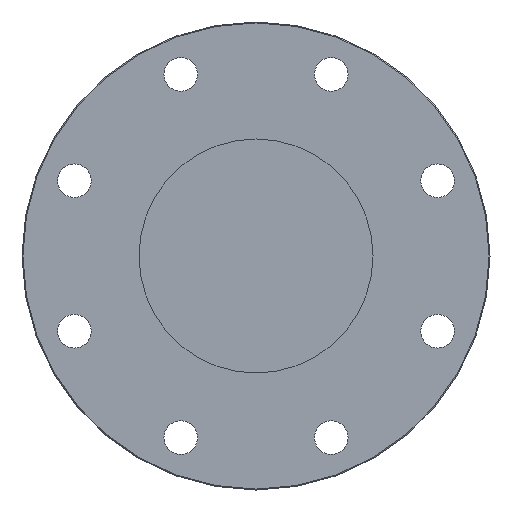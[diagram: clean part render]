
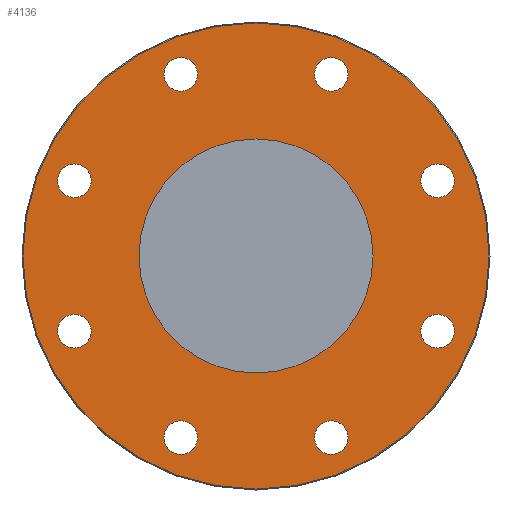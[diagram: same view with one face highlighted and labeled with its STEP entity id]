
A CAD part, left-side view. The second image highlights one B-rep face of the part: STEP entity #4136.
In plain terms, the highlighted planar face has unit normal (-1, 0, 0).
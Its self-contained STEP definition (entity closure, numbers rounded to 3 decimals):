
#138=CIRCLE('',#4373,9.);
#139=CIRCLE('',#4374,9.);
#141=CIRCLE('',#4378,9.);
#142=CIRCLE('',#4379,9.);
#144=CIRCLE('',#4383,9.);
#145=CIRCLE('',#4384,9.);
#147=CIRCLE('',#4388,9.);
#148=CIRCLE('',#4389,9.);
#150=CIRCLE('',#4393,9.);
#151=CIRCLE('',#4394,9.);
#153=CIRCLE('',#4398,9.);
#154=CIRCLE('',#4399,9.);
#156=CIRCLE('',#4403,9.);
#157=CIRCLE('',#4404,9.);
#159=CIRCLE('',#4408,9.);
#160=CIRCLE('',#4409,9.);
#163=CIRCLE('',#4416,62.5);
#176=CIRCLE('',#4437,124.5);
#272=FACE_BOUND('',#759,.T.);
#273=FACE_BOUND('',#760,.T.);
#274=FACE_BOUND('',#761,.T.);
#275=FACE_BOUND('',#762,.T.);
#276=FACE_BOUND('',#763,.T.);
#277=FACE_BOUND('',#764,.T.);
#278=FACE_BOUND('',#765,.T.);
#279=FACE_BOUND('',#766,.T.);
#280=FACE_BOUND('',#767,.T.);
#496=FACE_OUTER_BOUND('',#758,.T.);
#758=EDGE_LOOP('',(#3746));
#759=EDGE_LOOP('',(#3747,#3748));
#760=EDGE_LOOP('',(#3749,#3750));
#761=EDGE_LOOP('',(#3751,#3752));
#762=EDGE_LOOP('',(#3753,#3754));
#763=EDGE_LOOP('',(#3755,#3756));
#764=EDGE_LOOP('',(#3757,#3758));
#765=EDGE_LOOP('',(#3759,#3760));
#766=EDGE_LOOP('',(#3761,#3762));
#767=EDGE_LOOP('',(#3763));
#1975=VERTEX_POINT('',#7303);
#1976=VERTEX_POINT('',#7304);
#1978=VERTEX_POINT('',#7313);
#1979=VERTEX_POINT('',#7314);
#1981=VERTEX_POINT('',#7323);
#1982=VERTEX_POINT('',#7324);
#1984=VERTEX_POINT('',#7333);
#1985=VERTEX_POINT('',#7334);
#1987=VERTEX_POINT('',#7343);
#1988=VERTEX_POINT('',#7344);
#1990=VERTEX_POINT('',#7353);
#1991=VERTEX_POINT('',#7354);
#1993=VERTEX_POINT('',#7363);
#1994=VERTEX_POINT('',#7364);
#1996=VERTEX_POINT('',#7373);
#1997=VERTEX_POINT('',#7374);
#2000=VERTEX_POINT('',#7387);
#2013=VERTEX_POINT('',#7427);
#2537=EDGE_CURVE('',#1975,#1976,#138,.T.);
#2538=EDGE_CURVE('',#1976,#1975,#139,.T.);
#2542=EDGE_CURVE('',#1978,#1979,#141,.T.);
#2543=EDGE_CURVE('',#1979,#1978,#142,.T.);
#2547=EDGE_CURVE('',#1981,#1982,#144,.T.);
#2548=EDGE_CURVE('',#1982,#1981,#145,.T.);
#2552=EDGE_CURVE('',#1984,#1985,#147,.T.);
#2553=EDGE_CURVE('',#1985,#1984,#148,.T.);
#2557=EDGE_CURVE('',#1987,#1988,#150,.T.);
#2558=EDGE_CURVE('',#1988,#1987,#151,.T.);
#2562=EDGE_CURVE('',#1990,#1991,#153,.T.);
#2563=EDGE_CURVE('',#1991,#1990,#154,.T.);
#2567=EDGE_CURVE('',#1993,#1994,#156,.T.);
#2568=EDGE_CURVE('',#1994,#1993,#157,.T.);
#2572=EDGE_CURVE('',#1996,#1997,#159,.T.);
#2573=EDGE_CURVE('',#1997,#1996,#160,.T.);
#2578=EDGE_CURVE('',#2000,#2000,#163,.T.);
#2598=EDGE_CURVE('',#2013,#2013,#176,.T.);
#3746=ORIENTED_EDGE('',*,*,#2598,.F.);
#3747=ORIENTED_EDGE('',*,*,#2537,.T.);
#3748=ORIENTED_EDGE('',*,*,#2538,.T.);
#3749=ORIENTED_EDGE('',*,*,#2542,.T.);
#3750=ORIENTED_EDGE('',*,*,#2543,.T.);
#3751=ORIENTED_EDGE('',*,*,#2547,.T.);
#3752=ORIENTED_EDGE('',*,*,#2548,.T.);
#3753=ORIENTED_EDGE('',*,*,#2552,.T.);
#3754=ORIENTED_EDGE('',*,*,#2553,.T.);
#3755=ORIENTED_EDGE('',*,*,#2557,.T.);
#3756=ORIENTED_EDGE('',*,*,#2558,.T.);
#3757=ORIENTED_EDGE('',*,*,#2562,.T.);
#3758=ORIENTED_EDGE('',*,*,#2563,.T.);
#3759=ORIENTED_EDGE('',*,*,#2567,.T.);
#3760=ORIENTED_EDGE('',*,*,#2568,.T.);
#3761=ORIENTED_EDGE('',*,*,#2572,.T.);
#3762=ORIENTED_EDGE('',*,*,#2573,.T.);
#3763=ORIENTED_EDGE('',*,*,#2578,.T.);
#3901=PLANE('',#4438);
#4136=ADVANCED_FACE('',(#496,#272,#273,#274,#275,#276,#277,#278,#279,#280),
#3901,.T.);
#4373=AXIS2_PLACEMENT_3D('',#7305,#5232,#5233);
#4374=AXIS2_PLACEMENT_3D('',#7306,#5234,#5235);
#4378=AXIS2_PLACEMENT_3D('',#7315,#5244,#5245);
#4379=AXIS2_PLACEMENT_3D('',#7316,#5246,#5247);
#4383=AXIS2_PLACEMENT_3D('',#7325,#5256,#5257);
#4384=AXIS2_PLACEMENT_3D('',#7326,#5258,#5259);
#4388=AXIS2_PLACEMENT_3D('',#7335,#5268,#5269);
#4389=AXIS2_PLACEMENT_3D('',#7336,#5270,#5271);
#4393=AXIS2_PLACEMENT_3D('',#7345,#5280,#5281);
#4394=AXIS2_PLACEMENT_3D('',#7346,#5282,#5283);
#4398=AXIS2_PLACEMENT_3D('',#7355,#5292,#5293);
#4399=AXIS2_PLACEMENT_3D('',#7356,#5294,#5295);
#4403=AXIS2_PLACEMENT_3D('',#7365,#5304,#5305);
#4404=AXIS2_PLACEMENT_3D('',#7366,#5306,#5307);
#4408=AXIS2_PLACEMENT_3D('',#7375,#5316,#5317);
#4409=AXIS2_PLACEMENT_3D('',#7376,#5318,#5319);
#4416=AXIS2_PLACEMENT_3D('',#7388,#5334,#5335);
#4437=AXIS2_PLACEMENT_3D('',#7429,#5383,#5384);
#4438=AXIS2_PLACEMENT_3D('',#7430,#5385,#5386);
#5232=DIRECTION('center_axis',(1.,0.,0.));
#5233=DIRECTION('ref_axis',(0.,0.,1.));
#5234=DIRECTION('center_axis',(1.,0.,0.));
#5235=DIRECTION('ref_axis',(0.,0.,1.));
#5244=DIRECTION('center_axis',(1.,0.,0.));
#5245=DIRECTION('ref_axis',(0.,0.,1.));
#5246=DIRECTION('center_axis',(1.,0.,0.));
#5247=DIRECTION('ref_axis',(0.,0.,1.));
#5256=DIRECTION('center_axis',(1.,0.,0.));
#5257=DIRECTION('ref_axis',(0.,0.,1.));
#5258=DIRECTION('center_axis',(1.,0.,0.));
#5259=DIRECTION('ref_axis',(0.,0.,1.));
#5268=DIRECTION('center_axis',(1.,0.,0.));
#5269=DIRECTION('ref_axis',(0.,0.,1.));
#5270=DIRECTION('center_axis',(1.,0.,0.));
#5271=DIRECTION('ref_axis',(0.,0.,1.));
#5280=DIRECTION('center_axis',(1.,0.,0.));
#5281=DIRECTION('ref_axis',(0.,0.,1.));
#5282=DIRECTION('center_axis',(1.,0.,0.));
#5283=DIRECTION('ref_axis',(0.,0.,1.));
#5292=DIRECTION('center_axis',(1.,0.,0.));
#5293=DIRECTION('ref_axis',(0.,0.,1.));
#5294=DIRECTION('center_axis',(1.,0.,0.));
#5295=DIRECTION('ref_axis',(0.,0.,1.));
#5304=DIRECTION('center_axis',(1.,0.,0.));
#5305=DIRECTION('ref_axis',(0.,0.,1.));
#5306=DIRECTION('center_axis',(1.,0.,0.));
#5307=DIRECTION('ref_axis',(0.,0.,1.));
#5316=DIRECTION('center_axis',(1.,0.,0.));
#5317=DIRECTION('ref_axis',(0.,0.,1.));
#5318=DIRECTION('center_axis',(1.,0.,0.));
#5319=DIRECTION('ref_axis',(0.,0.,1.));
#5334=DIRECTION('center_axis',(1.,0.,0.));
#5335=DIRECTION('ref_axis',(0.,0.,-1.));
#5383=DIRECTION('center_axis',(1.,0.,0.));
#5384=DIRECTION('ref_axis',(0.,-1.,0.));
#5385=DIRECTION('center_axis',(-1.,0.,0.));
#5386=DIRECTION('ref_axis',(0.,0.,1.));
#7303=CARTESIAN_POINT('',(-85.,97.007,49.182));
#7304=CARTESIAN_POINT('',(-85.,97.007,31.182));
#7305=CARTESIAN_POINT('Origin',(-85.,97.007,40.182));
#7306=CARTESIAN_POINT('Origin',(-85.,97.007,40.182));
#7313=CARTESIAN_POINT('',(-85.,40.182,106.007));
#7314=CARTESIAN_POINT('',(-85.,40.182,88.007));
#7315=CARTESIAN_POINT('Origin',(-85.,40.182,97.007));
#7316=CARTESIAN_POINT('Origin',(-85.,40.182,97.007));
#7323=CARTESIAN_POINT('',(-85.,-40.182,106.007));
#7324=CARTESIAN_POINT('',(-85.,-40.182,88.007));
#7325=CARTESIAN_POINT('Origin',(-85.,-40.182,97.007));
#7326=CARTESIAN_POINT('Origin',(-85.,-40.182,97.007));
#7333=CARTESIAN_POINT('',(-85.,-97.007,49.182));
#7334=CARTESIAN_POINT('',(-85.,-97.007,31.182));
#7335=CARTESIAN_POINT('Origin',(-85.,-97.007,40.182));
#7336=CARTESIAN_POINT('Origin',(-85.,-97.007,40.182));
#7343=CARTESIAN_POINT('',(-85.,-97.007,-31.182));
#7344=CARTESIAN_POINT('',(-85.,-97.007,-49.182));
#7345=CARTESIAN_POINT('Origin',(-85.,-97.007,-40.182));
#7346=CARTESIAN_POINT('Origin',(-85.,-97.007,-40.182));
#7353=CARTESIAN_POINT('',(-85.,-40.182,-88.007));
#7354=CARTESIAN_POINT('',(-85.,-40.182,-106.007));
#7355=CARTESIAN_POINT('Origin',(-85.,-40.182,-97.007));
#7356=CARTESIAN_POINT('Origin',(-85.,-40.182,-97.007));
#7363=CARTESIAN_POINT('',(-85.,40.182,-88.007));
#7364=CARTESIAN_POINT('',(-85.,40.182,-106.007));
#7365=CARTESIAN_POINT('Origin',(-85.,40.182,-97.007));
#7366=CARTESIAN_POINT('Origin',(-85.,40.182,-97.007));
#7373=CARTESIAN_POINT('',(-85.,97.007,-31.182));
#7374=CARTESIAN_POINT('',(-85.,97.007,-49.182));
#7375=CARTESIAN_POINT('Origin',(-85.,97.007,-40.182));
#7376=CARTESIAN_POINT('Origin',(-85.,97.007,-40.182));
#7387=CARTESIAN_POINT('',(-85.,0.,62.5));
#7388=CARTESIAN_POINT('Origin',(-85.,0.,0.));
#7427=CARTESIAN_POINT('',(-85.,124.5,0.));
#7429=CARTESIAN_POINT('Origin',(-85.,0.,0.));
#7430=CARTESIAN_POINT('Origin',(-85.,62.5,0.));
